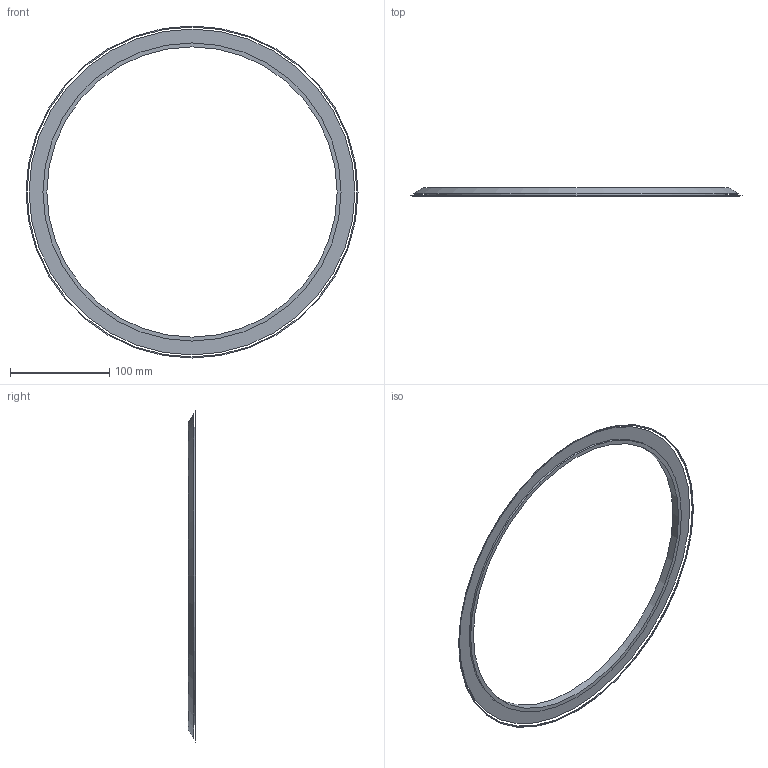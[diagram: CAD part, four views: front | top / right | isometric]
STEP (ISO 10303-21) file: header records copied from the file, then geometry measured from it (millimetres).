
FILE_DESCRIPTION(('Open CASCADE Model'),'2;1');
FILE_NAME('Open CASCADE Shape Model','2026-10-18T22:58:07',('Author'),( 'Open CASCADE'),'Open CASCADE STEP processor 7.9','Open CASCADE 7.9' ,'Unknown');
FILE_SCHEMA(('AUTOMOTIVE_DESIGN { 1 0 10303 214 1 1 1 1 }'));
Length unit declared in the file: millimetre
Products named in the file (3): Open CASCADE STEP translator 7.9 10; Open CASCADE STEP translator 7.9 10.1; Open CASCADE STEP translator 7.9 10.2
Assembly tree (2 placements, depth 2):
  Open CASCADE STEP translator 7.9 10
    Open CASCADE STEP translator 7.9 10.1
    Open CASCADE STEP translator 7.9 10.2
Bounding box: 334.05 x 8 x 334.05 mm (x, y, z)
Volume: 83781 mm3; surface area: 48829 mm2
Topology: 2 solids, 2 shells, 9 faces, 14 edges, 9 vertices
Faces by surface type: plane 4, cylinder 3, cone 2
Full cylindrical faces by diameter (mm): 292 x1, 300 x1, 332 x1
Entity records: 446 total; most frequent: DIRECTION 74, CARTESIAN_POINT 69, ORIENTED_EDGE 28, PCURVE 28, DEFINITIONAL_REPRESENTATION 28, LINE 25, VECTOR 25, AXIS2_PLACEMENT_3D 21
